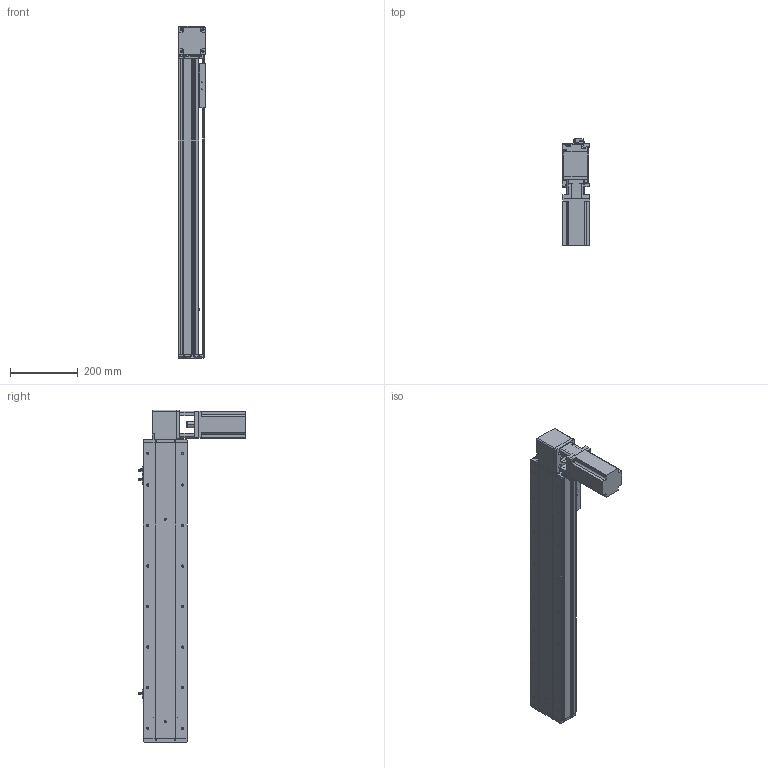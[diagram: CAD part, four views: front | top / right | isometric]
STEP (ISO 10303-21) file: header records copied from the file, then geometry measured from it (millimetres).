
FILE_DESCRIPTION (( 'STEP AP214' ), '1' );
FILE_NAME ('KSD130B-S650-MRT-CM.STEP', '2019-11-16T03:03:10', ( '微软用户' ), ( '微软中国' ), 'SwSTEP 2.0', 'SolidWorks 2014', '' );
FILE_SCHEMA (( 'AUTOMOTIVE_DESIGN' ));
Length unit declared in the file: millimetre
Products named in the file (12): 覜茼え100遵圉猾敕; U倰嫖萇EEㄜSX672; 130宽安装板同步带带电机座750W; 130宽盖板半封闭同步带-650行程; 130宽马达安装板同步带左-改; 130宽马达安装板同步带半封闭; 130宽同步带安装座半封闭; 130宽端盖同步带半封闭; 130宽底板半封闭同步带-650行程; KSD130B-S650-MRT-CM; 台达ECMA－C20807AS伺服电机; 130宽马达安装板1-带电机座750W（1）
Assembly tree (13 placements, depth 2):
  KSD130B-S650-MRT-CM
    130宽底板半封闭同步带-650行程
    130宽端盖同步带半封闭
    130宽同步带安装座半封闭
    130宽马达安装板同步带半封闭
    130宽马达安装板同步带左-改
    130宽盖板半封闭同步带-650行程
    130宽安装板同步带带电机座750W
    U倰嫖萇EEㄜSX672  x3
    覜茼え100遵圉猾敕
    130宽马达安装板1-带电机座750W（1）
    台达ECMA－C20807AS伺服电机
Bounding box: 81 x 316 x 983 mm (x, y, z)
Volume: 4019065.1 mm3; surface area: 1023046.9 mm2
Topology: 14 solids, 14 shells, 1439 faces, 4072 edges, 2611 vertices
Faces by surface type: cylinder 685, plane 597, cone 157
Entity records: 46555 total; most frequent: CARTESIAN_POINT 8481, DIRECTION 7118, ORIENTED_EDGE 6828, EDGE_CURVE 3414, AXIS2_PLACEMENT_3D 2600, VERTEX_POINT 2235, LINE 1918, VECTOR 1918
